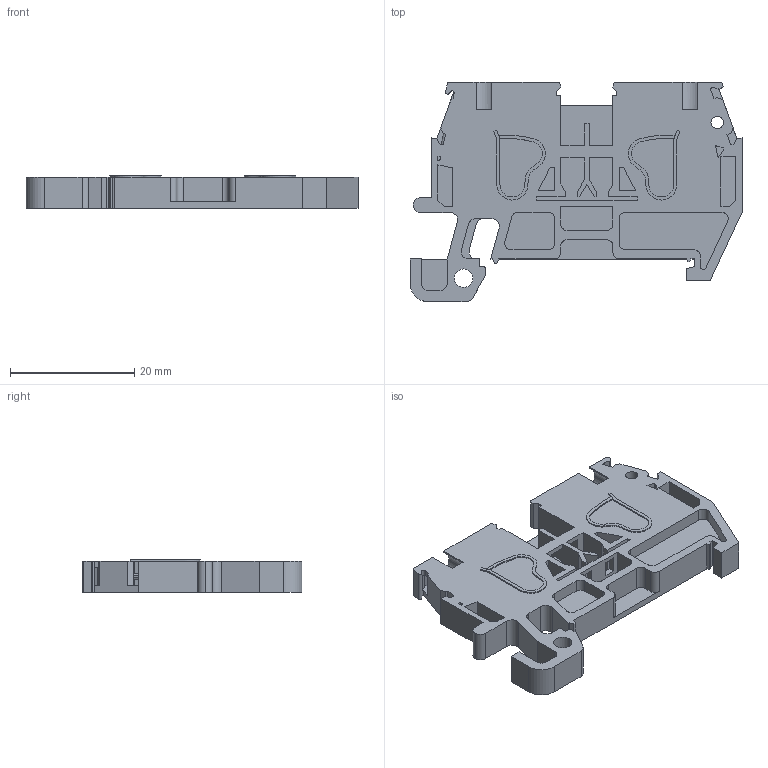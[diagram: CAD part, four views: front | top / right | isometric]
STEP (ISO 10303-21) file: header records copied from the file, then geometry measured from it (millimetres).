
FILE_DESCRIPTION (( 'STEP AP214' ), '1' );
FILE_NAME ('42416.STEP', '2021-03-26T09:33:14', ( '' ), ( '' ), 'SwSTEP 2.0', 'SolidWorks 2020', '' );
FILE_SCHEMA (( 'AUTOMOTIVE_DESIGN' ));
Length unit declared in the file: millimetre
Products named in the file (1): 42416
Bounding box: 53.5 x 35.4 x 5.2 mm (x, y, z)
Volume: 4682.1 mm3; surface area: 5620.5 mm2
Topology: 1 solids, 1 shells, 350 faces, 987 edges, 654 vertices
Faces by surface type: plane 267, cylinder 83
Entity records: 11283 total; most frequent: CARTESIAN_POINT 2052, ORIENTED_EDGE 1974, DIRECTION 1837, EDGE_CURVE 987, VECTOR 799, LINE 799, VERTEX_POINT 654, AXIS2_PLACEMENT_3D 519
